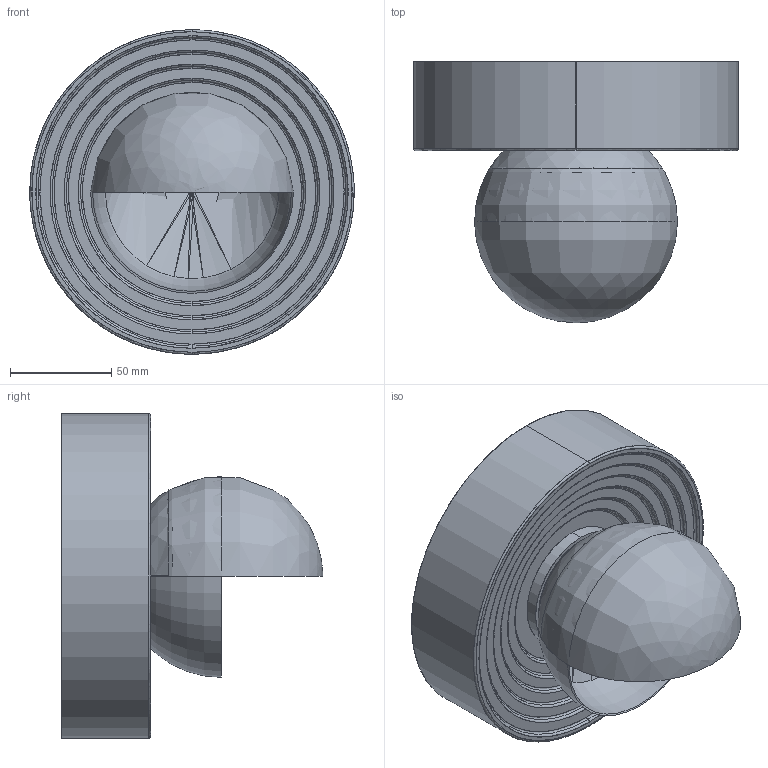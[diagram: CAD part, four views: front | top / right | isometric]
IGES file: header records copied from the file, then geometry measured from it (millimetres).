
Start section: SolidWorks IGES file using analytic representation for surfaces
Global section: file name: C:\Users\anna.bielnik\Desktop\kinkkiet ceramiczny\kinkiet ceramiczny.IGS; native system: SolidWorks 2024; preprocessor: SolidWorks 2024; author: anna.bielnik; date: 250225.144236; units: millimetre
Bounding box: 160 x 128.86 x 160 mm (x, y, z)
Surface area: 133015.3 mm2 (no closed solid volume)
Topology: 0 solids, 0 shells, 53 faces, 1632 edges, 1631 vertices
Faces by surface type: bspline 41, revolution 12
